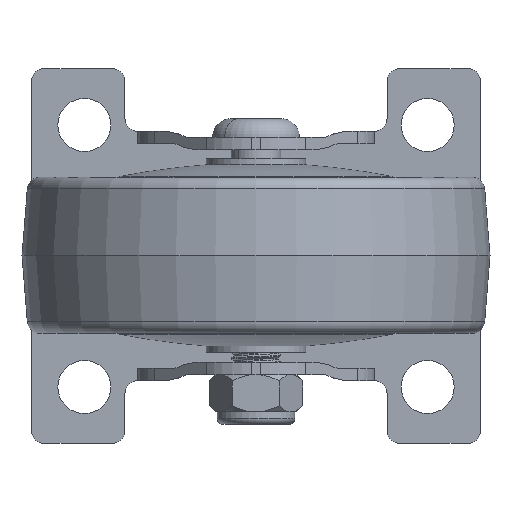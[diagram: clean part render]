
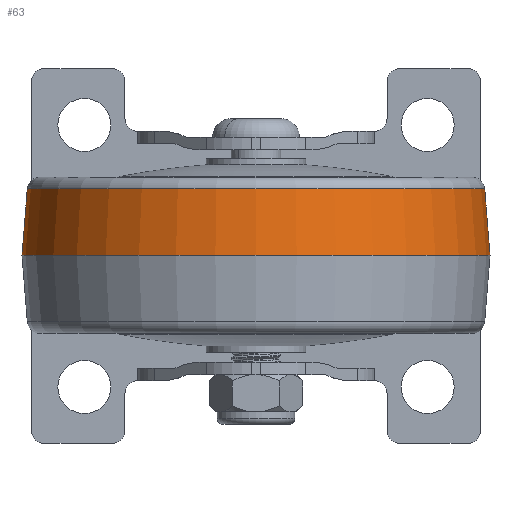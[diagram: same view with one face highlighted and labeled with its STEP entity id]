
A CAD part, front view. The second image highlights one B-rep face of the part: STEP entity #63.
In plain terms, the highlighted conical face has half-angle 4.574 degrees and reference radius 37.5 mm.
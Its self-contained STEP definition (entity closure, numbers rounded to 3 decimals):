
#63 = ADVANCED_FACE ( 'NONE', ( #490 ), #18991, .T. ) ;
#215 = LINE ( 'NONE', #12188, #6860 ) ;
#490 = FACE_OUTER_BOUND ( 'NONE', #15680, .T. ) ;
#1480 = DIRECTION ( 'NONE',  ( 0., 0., -1. ) ) ;
#1932 = CARTESIAN_POINT ( 'NONE',  ( 0., 0., 37.5 ) ) ;
#2008 = AXIS2_PLACEMENT_3D ( 'NONE', #9550, #20009, #4240 ) ;
#2036 = CARTESIAN_POINT ( 'NONE',  ( 0., 0., -37.5 ) ) ;
#2060 = EDGE_CURVE ( 'NONE', #12602, #14333, #215, .T. ) ;
#3270 = CIRCLE ( 'NONE', #5822, 37.5 ) ;
#4240 = DIRECTION ( 'NONE',  ( 0., 0., 1. ) ) ;
#4977 = CARTESIAN_POINT ( 'NONE',  ( 0., 0., 0. ) ) ;
#5782 = LINE ( 'NONE', #12794, #10915 ) ;
#5822 = AXIS2_PLACEMENT_3D ( 'NONE', #4977, #19256, #16970 ) ;
#6256 = ORIENTED_EDGE ( 'NONE', *, *, #22726, .T. ) ;
#6860 = VECTOR ( 'NONE', #17609, 1000. ) ;
#7529 = DIRECTION ( 'NONE',  ( 0., -1., 0. ) ) ;
#7769 = ORIENTED_EDGE ( 'NONE', *, *, #22224, .F. ) ;
#9550 = CARTESIAN_POINT ( 'NONE',  ( 0., 10.659, 0. ) ) ;
#9903 = ORIENTED_EDGE ( 'NONE', *, *, #2060, .T. ) ;
#10506 = DIRECTION ( 'NONE',  ( 0., -0.997, 0.08 ) ) ;
#10915 = VECTOR ( 'NONE', #10506, 1000. ) ;
#11303 = ORIENTED_EDGE ( 'NONE', *, *, #17806, .F. ) ;
#11589 = VERTEX_POINT ( 'NONE', #21786 ) ;
#12188 = CARTESIAN_POINT ( 'NONE',  ( 0., 0., -37.5 ) ) ;
#12476 = CARTESIAN_POINT ( 'NONE',  ( 0., 0., 0. ) ) ;
#12602 = VERTEX_POINT ( 'NONE', #19048 ) ;
#12794 = CARTESIAN_POINT ( 'NONE',  ( 0., 0., 37.5 ) ) ;
#13406 = CIRCLE ( 'NONE', #2008, 36.647 ) ;
#14333 = VERTEX_POINT ( 'NONE', #2036 ) ;
#15680 = EDGE_LOOP ( 'NONE', ( #7769, #6256, #9903, #11303 ) ) ;
#16970 = DIRECTION ( 'NONE',  ( 0., 0., -1. ) ) ;
#17381 = VERTEX_POINT ( 'NONE', #1932 ) ;
#17609 = DIRECTION ( 'NONE',  ( 0., -0.997, -0.08 ) ) ;
#17806 = EDGE_CURVE ( 'NONE', #17381, #14333, #3270, .T. ) ;
#18598 = AXIS2_PLACEMENT_3D ( 'NONE', #12476, #7529, #1480 ) ;
#18991 = CONICAL_SURFACE ( 'NONE', #18598, 37.5, 0.08 ) ;
#19048 = CARTESIAN_POINT ( 'NONE',  ( 0., 10.659, -36.647 ) ) ;
#19256 = DIRECTION ( 'NONE',  ( 0., -1., 0. ) ) ;
#20009 = DIRECTION ( 'NONE',  ( 0., -1., 0. ) ) ;
#21786 = CARTESIAN_POINT ( 'NONE',  ( 0., 10.659, 36.647 ) ) ;
#22224 = EDGE_CURVE ( 'NONE', #11589, #17381, #5782, .T. ) ;
#22726 = EDGE_CURVE ( 'NONE', #11589, #12602, #13406, .T. ) ;
